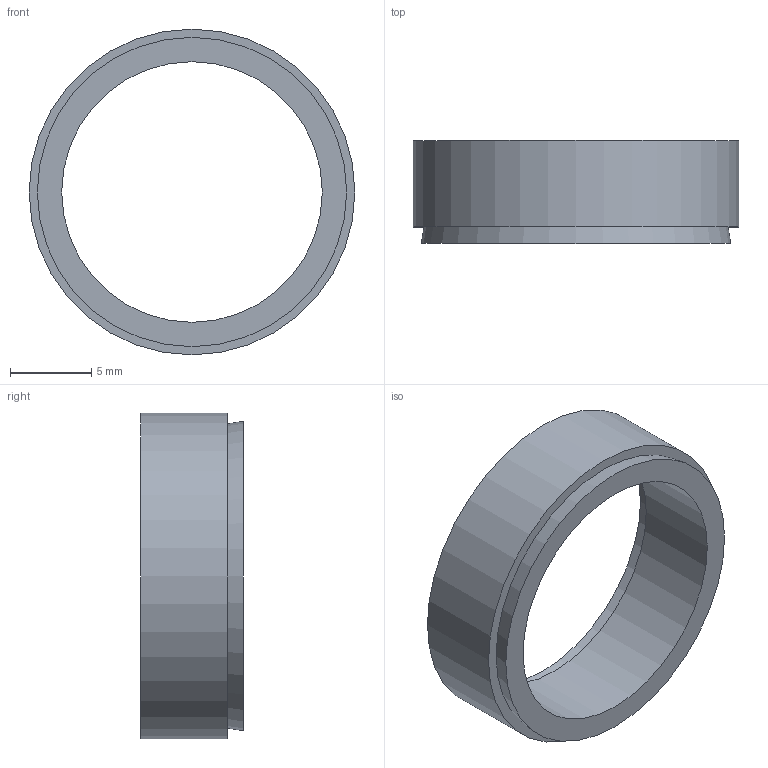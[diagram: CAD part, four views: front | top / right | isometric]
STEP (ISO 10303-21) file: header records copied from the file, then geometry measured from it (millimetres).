
FILE_DESCRIPTION( ( 'Unknown' ), '1' );
FILE_NAME( 'C:/Dokumente und Einstellungen/Sven/Desktop/homepage/cad - homepage/KBS50/KBS 50 - 16 x 20.stp', 'Unknown', ( 'Unknown' ), ( 'Unknown' ), 'XStep 1.0', 'Unknown', ' ' );
FILE_SCHEMA( ( 'automotive_design' ) );
Length unit declared in the file: millimetre
Products named in the file (1): 1
Bounding box: 20 x 6.3 x 20 mm (x, y, z)
Volume: 647 mm3; surface area: 958.1 mm2
Topology: 1 solids, 1 shells, 8 faces, 12 edges, 8 vertices
Faces by surface type: plane 4, cylinder 2, cone 2
Full cylindrical faces by diameter (mm): 16 x1, 20 x1
Entity records: 248 total; most frequent: DIRECTION 34, CARTESIAN_POINT 25, AXIS2_PLACEMENT_3D 17, EDGE_LOOP 16, ORIENTED_EDGE 16, FACE_OUTER_BOUND 10, STYLED_ITEM 8, PRESENTATION_STYLE_ASSIGNMENT 8
